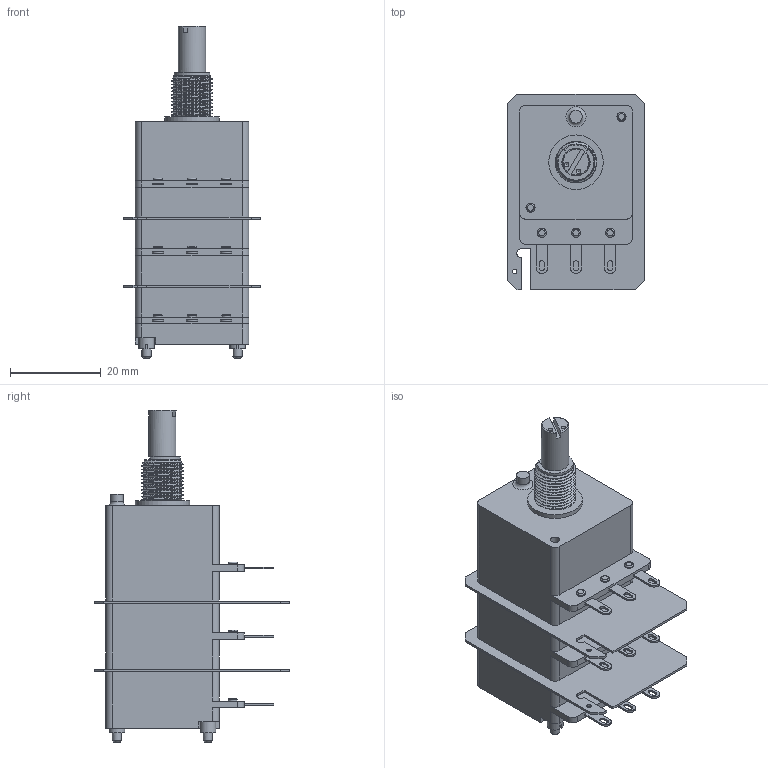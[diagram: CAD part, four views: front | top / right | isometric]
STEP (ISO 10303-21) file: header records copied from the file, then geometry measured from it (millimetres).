
FILE_DESCRIPTION(('FreeCAD Model'),'2;1');
FILE_NAME('Open CASCADE Shape Model','2026-07-14T16:12:34',(''),(''), 'Open CASCADE STEP processor 7.8','FreeCAD','Unknown');
FILE_SCHEMA(('AUTOMOTIVE_DESIGN { 1 0 10303 214 1 1 1 1 }'));
Length unit declared in the file: millimetre
Products named in the file (1): 3CP25XX-S-6SM20
Bounding box: 30 x 43 x 73 mm (x, y, z)
Volume: 32420.9 mm3; surface area: 12309.7 mm2
Topology: 1 solids, 20 shells, 408 faces, 948 edges, 621 vertices
Faces by surface type: plane 222, cylinder 127, bspline 38, torus 13, cone 6, sphere 2
Full cylindrical faces by diameter (mm): 1 x2, 1.9 x10, 2 x25, 2.2 x14, 2.8 x1, 3.5 x2, 4.5 x3, 5.4 x1, 6 x1, 6.05 x1, 8 x1, 9 x2, 12 x1
Entity records: 18453 total; most frequent: CARTESIAN_POINT 6344, DIRECTION 1932, ORIENTED_EDGE 1890, EDGE_CURVE 945, AXIS2_PLACEMENT_3D 722, VERTEX_POINT 621, FACE_BOUND 492, EDGE_LOOP 492
